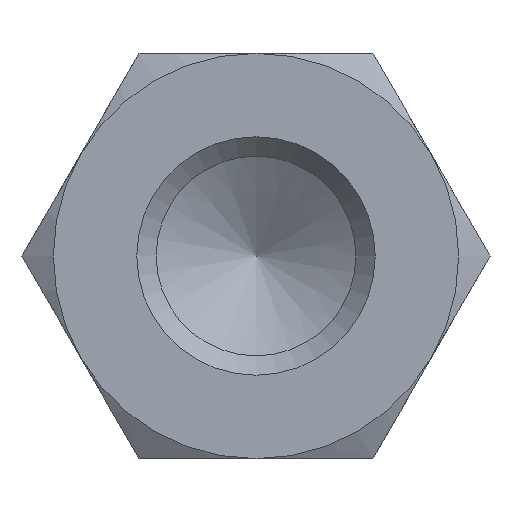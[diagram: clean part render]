
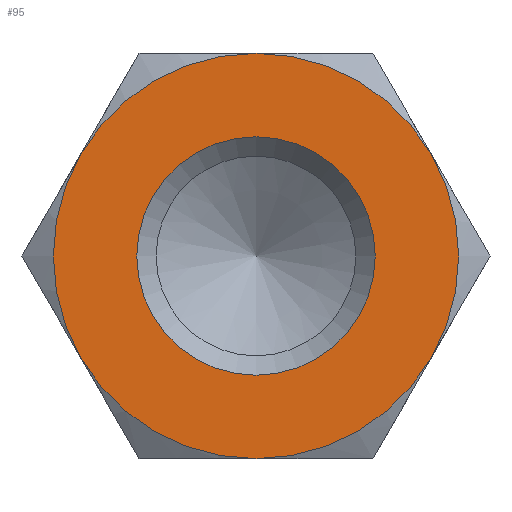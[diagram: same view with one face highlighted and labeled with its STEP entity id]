
A CAD part, left-side view. The second image highlights one B-rep face of the part: STEP entity #95.
In plain terms, the highlighted planar face has unit normal (-1, 0, 0).
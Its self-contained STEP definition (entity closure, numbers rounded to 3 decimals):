
#95 = ADVANCED_FACE( '', ( #147, #148 ), #149, .F. );
#147 = FACE_OUTER_BOUND( '', #206, .T. );
#148 = FACE_BOUND( '', #207, .T. );
#149 = PLANE( '', #208 );
#206 = EDGE_LOOP( '', ( #356, #357, #358, #359, #360, #361 ) );
#207 = EDGE_LOOP( '', ( #362 ) );
#208 = AXIS2_PLACEMENT_3D( '', #363, #364, #365 );
#356 = ORIENTED_EDGE( '', *, *, #440, .F. );
#357 = ORIENTED_EDGE( '', *, *, #425, .F. );
#358 = ORIENTED_EDGE( '', *, *, #441, .F. );
#359 = ORIENTED_EDGE( '', *, *, #437, .F. );
#360 = ORIENTED_EDGE( '', *, *, #442, .F. );
#361 = ORIENTED_EDGE( '', *, *, #443, .F. );
#362 = ORIENTED_EDGE( '', *, *, #439, .T. );
#363 = CARTESIAN_POINT( '', ( -30., 0., 0. ) );
#364 = DIRECTION( '', ( 1., 0., 0. ) );
#365 = DIRECTION( '', ( 0., 0., -1. ) );
#425 = EDGE_CURVE( '', #495, #493, #497, .T. );
#437 = EDGE_CURVE( '', #447, #506, #513, .T. );
#439 = EDGE_CURVE( '', #516, #516, #517, .T. );
#440 = EDGE_CURVE( '', #493, #486, #518, .T. );
#441 = EDGE_CURVE( '', #506, #495, #519, .T. );
#442 = EDGE_CURVE( '', #481, #447, #520, .T. );
#443 = EDGE_CURVE( '', #486, #481, #521, .T. );
#447 = VERTEX_POINT( '', #525 );
#481 = VERTEX_POINT( '', #607 );
#486 = VERTEX_POINT( '', #623 );
#493 = VERTEX_POINT( '', #650 );
#495 = VERTEX_POINT( '', #657 );
#497 = CIRCLE( '', #664, 8.5 );
#506 = VERTEX_POINT( '', #690 );
#513 = CIRCLE( '', #733, 8.5 );
#516 = VERTEX_POINT( '', #736 );
#517 = CIRCLE( '', #737, 5. );
#518 = CIRCLE( '', #738, 8.5 );
#519 = CIRCLE( '', #739, 8.5 );
#520 = CIRCLE( '', #740, 8.5 );
#521 = CIRCLE( '', #741, 8.5 );
#525 = CARTESIAN_POINT( '', ( -30., -7.361, 4.25 ) );
#607 = CARTESIAN_POINT( '', ( -30., 0., 8.5 ) );
#623 = CARTESIAN_POINT( '', ( -30., 7.361, 4.25 ) );
#650 = CARTESIAN_POINT( '', ( -30., 7.361, -4.25 ) );
#657 = CARTESIAN_POINT( '', ( -30., 0., -8.5 ) );
#664 = AXIS2_PLACEMENT_3D( '', #776, #777, #778 );
#690 = CARTESIAN_POINT( '', ( -30., -7.361, -4.25 ) );
#733 = AXIS2_PLACEMENT_3D( '', #781, #782, #783 );
#736 = CARTESIAN_POINT( '', ( -30., 0., -5. ) );
#737 = AXIS2_PLACEMENT_3D( '', #787, #788, #789 );
#738 = AXIS2_PLACEMENT_3D( '', #790, #791, #792 );
#739 = AXIS2_PLACEMENT_3D( '', #793, #794, #795 );
#740 = AXIS2_PLACEMENT_3D( '', #796, #797, #798 );
#741 = AXIS2_PLACEMENT_3D( '', #799, #800, #801 );
#776 = CARTESIAN_POINT( '', ( -30., 0., 0. ) );
#777 = DIRECTION( '', ( 1., 0., 0. ) );
#778 = DIRECTION( '', ( 0., 0., -1. ) );
#781 = CARTESIAN_POINT( '', ( -30., 0., 0. ) );
#782 = DIRECTION( '', ( 1., 0., 0. ) );
#783 = DIRECTION( '', ( 0., 0., -1. ) );
#787 = CARTESIAN_POINT( '', ( -30., 0., 0. ) );
#788 = DIRECTION( '', ( 1., 0., 0. ) );
#789 = DIRECTION( '', ( 0., 0., -1. ) );
#790 = CARTESIAN_POINT( '', ( -30., 0., 0. ) );
#791 = DIRECTION( '', ( 1., 0., 0. ) );
#792 = DIRECTION( '', ( 0., 0., -1. ) );
#793 = CARTESIAN_POINT( '', ( -30., 0., 0. ) );
#794 = DIRECTION( '', ( 1., 0., 0. ) );
#795 = DIRECTION( '', ( 0., 0., -1. ) );
#796 = CARTESIAN_POINT( '', ( -30., 0., 0. ) );
#797 = DIRECTION( '', ( 1., 0., 0. ) );
#798 = DIRECTION( '', ( 0., 0., -1. ) );
#799 = CARTESIAN_POINT( '', ( -30., 0., 0. ) );
#800 = DIRECTION( '', ( 1., 0., 0. ) );
#801 = DIRECTION( '', ( 0., 0., -1. ) );
